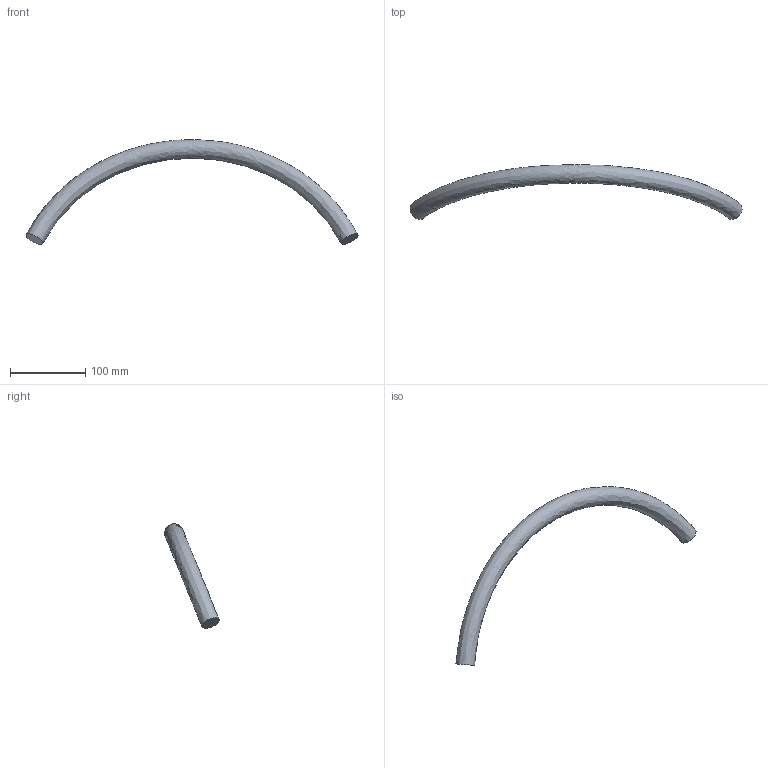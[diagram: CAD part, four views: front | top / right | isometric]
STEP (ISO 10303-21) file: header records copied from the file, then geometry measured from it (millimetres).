
FILE_DESCRIPTION(('Open CASCADE Model'),'2;1');
FILE_NAME('Open CASCADE Shape Model','2026-10-28T20:19:05',('Author'),( 'Open CASCADE'),'Open CASCADE STEP processor 7.8','Open CASCADE 7.8' ,'Unknown');
FILE_SCHEMA(('AUTOMOTIVE_DESIGN { 1 0 10303 214 1 1 1 1 }'));
Length unit declared in the file: millimetre
Products named in the file (1): Open CASCADE STEP translator 7.8 36
Bounding box: 442.4 x 72.98 x 139.38 mm (x, y, z)
Volume: 255486.7 mm3; surface area: 41859.6 mm2
Topology: 1 solids, 1 shells, 3 faces, 3 edges, 2 vertices
Faces by surface type: plane 2, bspline 1
Entity records: 245 total; most frequent: CARTESIAN_POINT 173, DIRECTION 10, ORIENTED_EDGE 6, PCURVE 6, DEFINITIONAL_REPRESENTATION 6, LINE 4, VECTOR 4, AXIS2_PLACEMENT_3D 3
